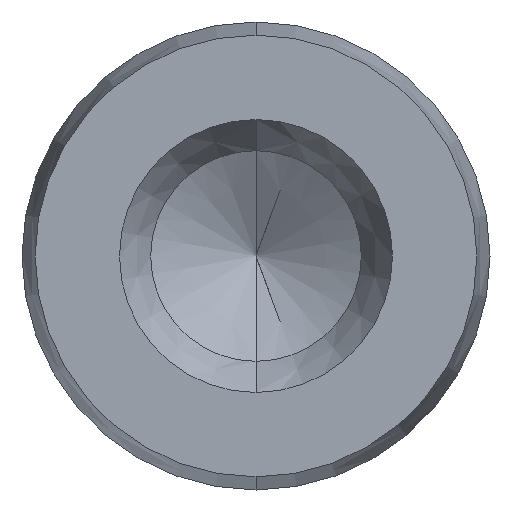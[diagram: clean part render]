
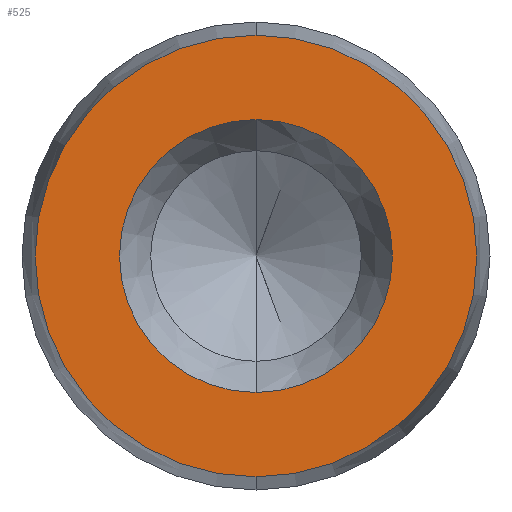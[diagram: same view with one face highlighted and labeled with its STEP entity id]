
A CAD part, front view. The second image highlights one B-rep face of the part: STEP entity #525.
In plain terms, the highlighted planar face has unit normal (0, -1, 0).
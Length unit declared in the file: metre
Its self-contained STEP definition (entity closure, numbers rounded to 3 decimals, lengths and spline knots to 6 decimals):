
#27 = AXIS2_PLACEMENT_3D ( 'NONE', #301, #331, #303 ) ;
#39 = CIRCLE ( 'NONE', #27, 0.007078 ) ;
#43 = AXIS2_PLACEMENT_3D ( 'NONE', #484, #418, #314 ) ;
#69 = EDGE_LOOP ( 'NONE', ( #158, #88 ) ) ;
#80 = ORIENTED_EDGE ( 'NONE', *, *, #574, .F. ) ;
#88 = ORIENTED_EDGE ( 'NONE', *, *, #550, .T. ) ;
#123 = VERTEX_POINT ( 'NONE', #377 ) ;
#125 = EDGE_LOOP ( 'NONE', ( #177, #80 ) ) ;
#134 = VERTEX_POINT ( 'NONE', #471 ) ;
#150 = VERTEX_POINT ( 'NONE', #300 ) ;
#158 = ORIENTED_EDGE ( 'NONE', *, *, #586, .T. ) ;
#177 = ORIENTED_EDGE ( 'NONE', *, *, #577, .F. ) ;
#184 = CIRCLE ( 'NONE', #195, 0.004375 ) ;
#192 = AXIS2_PLACEMENT_3D ( 'NONE', #326, #296, #435 ) ;
#195 = AXIS2_PLACEMENT_3D ( 'NONE', #422, #467, #490 ) ;
#197 = CIRCLE ( 'NONE', #192, 0.004375 ) ;
#199 = AXIS2_PLACEMENT_3D ( 'NONE', #421, #357, #358 ) ;
#204 = CIRCLE ( 'NONE', #199, 0.007078 ) ;
#234 = VERTEX_POINT ( 'NONE', #359 ) ;
#280 = PLANE ( 'NONE',  #43 ) ;
#296 = DIRECTION ( 'NONE',  ( 0., -1., 0. ) ) ;
#300 = CARTESIAN_POINT ( 'NONE',  ( 0., 0., -0.004375 ) ) ;
#301 = CARTESIAN_POINT ( 'NONE',  ( 0., 0., 0. ) ) ;
#303 = DIRECTION ( 'NONE',  ( 0., 0., -1. ) ) ;
#314 = DIRECTION ( 'NONE',  ( 0., 0., -1. ) ) ;
#326 = CARTESIAN_POINT ( 'NONE',  ( 0., 0., 0. ) ) ;
#331 = DIRECTION ( 'NONE',  ( 0., -1., 0. ) ) ;
#357 = DIRECTION ( 'NONE',  ( 0., -1., 0. ) ) ;
#358 = DIRECTION ( 'NONE',  ( 0., 0., -1. ) ) ;
#359 = CARTESIAN_POINT ( 'NONE',  ( 0., 0., 0.007078 ) ) ;
#375 = FACE_BOUND ( 'NONE', #125, .T. ) ;
#377 = CARTESIAN_POINT ( 'NONE',  ( 0., 0., -0.007078 ) ) ;
#418 = DIRECTION ( 'NONE',  ( 0., -1., 0. ) ) ;
#421 = CARTESIAN_POINT ( 'NONE',  ( 0., 0., 0. ) ) ;
#422 = CARTESIAN_POINT ( 'NONE',  ( 0., 0., 0. ) ) ;
#435 = DIRECTION ( 'NONE',  ( 0., 0., -1. ) ) ;
#467 = DIRECTION ( 'NONE',  ( 0., -1., 0. ) ) ;
#471 = CARTESIAN_POINT ( 'NONE',  ( 0., 0., 0.004375 ) ) ;
#482 = FACE_OUTER_BOUND ( 'NONE', #69, .T. ) ;
#484 = CARTESIAN_POINT ( 'NONE',  ( 0.004375, 0., 0. ) ) ;
#490 = DIRECTION ( 'NONE',  ( 0., 0., -1. ) ) ;
#525 = ADVANCED_FACE ( 'NONE', ( #482, #375 ), #280, .T. ) ;
#550 = EDGE_CURVE ( 'NONE', #123, #234, #39, .T. ) ;
#574 = EDGE_CURVE ( 'NONE', #134, #150, #197, .T. ) ;
#577 = EDGE_CURVE ( 'NONE', #150, #134, #184, .T. ) ;
#586 = EDGE_CURVE ( 'NONE', #234, #123, #204, .T. ) ;
